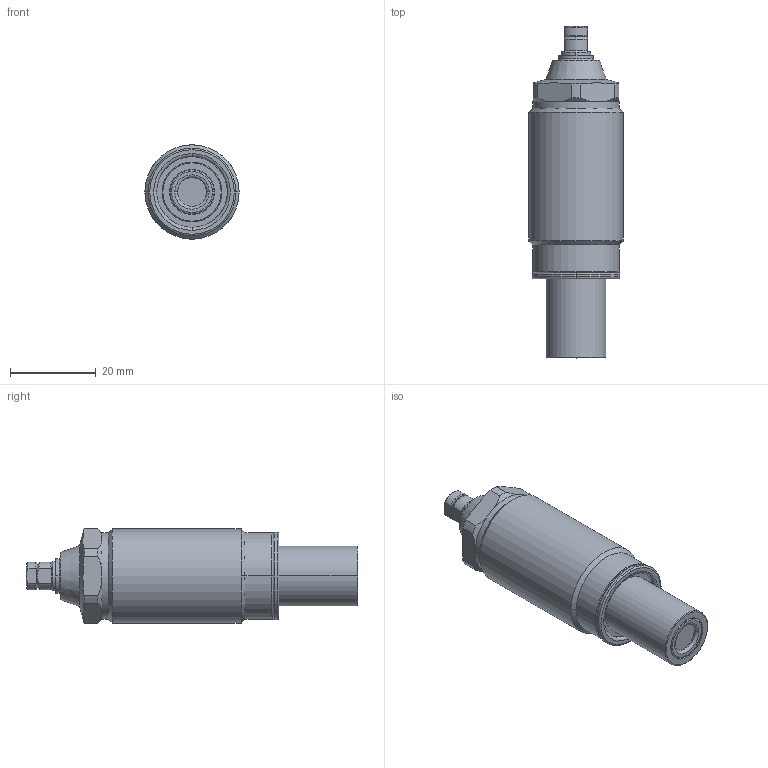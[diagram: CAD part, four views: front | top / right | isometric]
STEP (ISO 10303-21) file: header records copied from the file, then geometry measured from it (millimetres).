
FILE_DESCRIPTION(/* description */ (''),/* implementation_level */ '2;1');
FILE_NAME(/* name */ 'TNL22-Q.stp',/* time_stamp */ '2025-01-09T11:26:25+08:00',/* author */ (''),/* organization */ (''),/* preprocessor_version */ 'ST-DEVELOPER v16.7',/* originating_system */ 'SIEMENS PLM Software NX 12.0',/* authorisation */ '');
FILE_SCHEMA (('AUTOMOTIVE_DESIGN { 1 0 10303 214 3 1 1 1 }'));
Length unit declared in the file: millimetre
Products named in the file (7): XLD-M4_Oring807; XLD-M4_contactbolt2738; TNL22-Q-4; TNL22-Q-2; TNL22-Q-1; TNL22-Q-3; TNL22-Q_stp
Assembly tree (6 placements, depth 3):
  TNL22-Q_stp
    TNL22-Q-1
    TNL22-Q-2
    TNL22-Q-3
      XLD-M4_contactbolt2738
      XLD-M4_Oring807
    TNL22-Q-4
Bounding box: 22 x 77.5 x 22 mm (x, y, z)
Volume: 20654.9 mm3; surface area: 6003.4 mm2
Topology: 5 solids, 5 shells, 142 faces, 308 edges, 183 vertices
Faces by surface type: cylinder 43, torus 40, plane 34, cone 23, sphere 2
Full cylindrical faces by diameter (mm): 20.2 x1, 22 x1
Entity records: 4187 total; most frequent: CARTESIAN_POINT 845, DIRECTION 763, ORIENTED_EDGE 606, AXIS2_PLACEMENT_3D 343, EDGE_CURVE 303, CIRCLE 194, VERTEX_POINT 183, EDGE_LOOP 160
